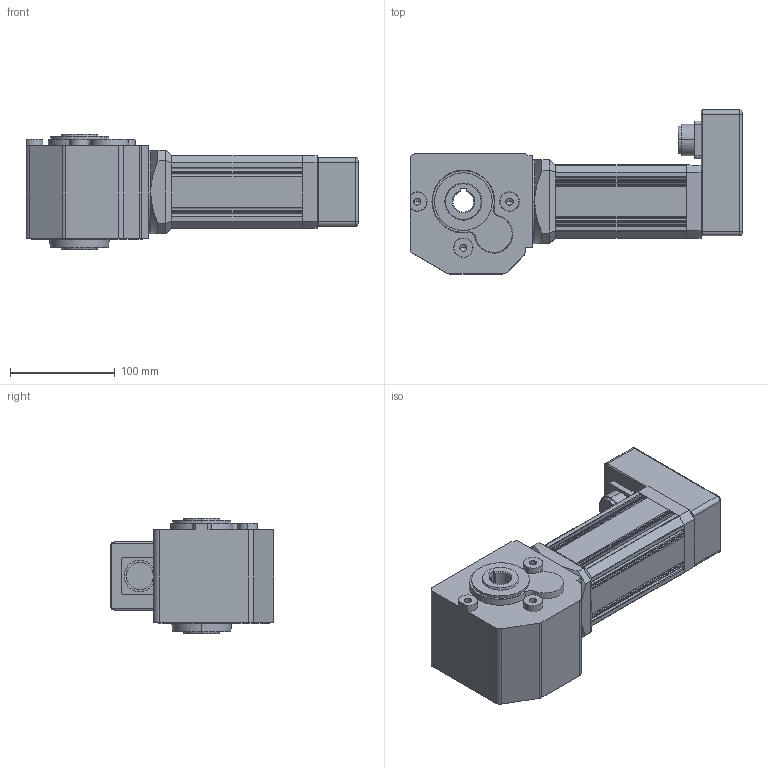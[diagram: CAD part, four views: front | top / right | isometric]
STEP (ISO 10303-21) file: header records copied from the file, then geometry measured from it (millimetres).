
FILE_DESCRIPTION(('OneSpaceDesigner STEP Export'),'2;1');
FILE_NAME('UECG313TH_ZB45_F.stp','2008-06-27T 8:18:38',(''),(''),'OneSpace Designer STEP processor (Jan. 2003) for AP214(CD)(Solid Model)','OneSpace Designer 12.01D 09-Jul-2004 (C) CoCreate Software GmbH','');
FILE_SCHEMA(('AUTOMOTIVE_DESIGN_CC2 {1 2 10303 214 -1 1 5 1}'));
Length unit declared in the file: millimetre
Products named in the file (2): UECG313TH_ZB45_F
Assembly tree (1 placements, depth 2):
  UECG313TH_ZB45_F
    UECG313TH_ZB45_F
Bounding box: 317 x 156.5 x 110 mm (x, y, z)
Volume: 2233997.8 mm3; surface area: 159752.3 mm2
Topology: 1 solids, 1 shells, 311 faces, 787 edges, 492 vertices
Faces by surface type: plane 156, cylinder 112, cone 20, bspline 15, torus 8
Entity records: 16458 total; most frequent: CARTESIAN_POINT 9376, ORIENTED_EDGE 1562, DIRECTION 1317, EDGE_CURVE 781, VERTEX_POINT 492, AXIS2_PLACEMENT_3D 441, VECTOR 435, LINE 435
